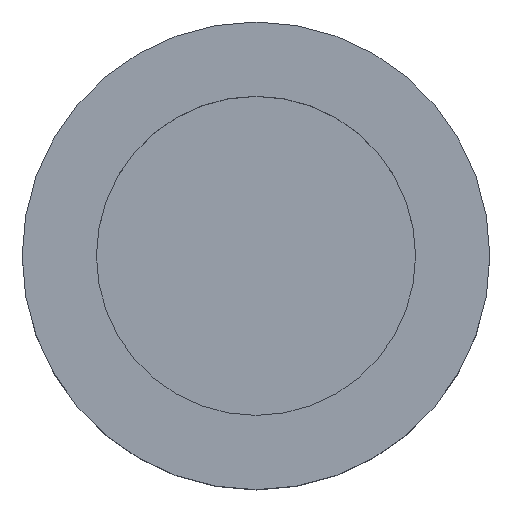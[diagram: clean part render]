
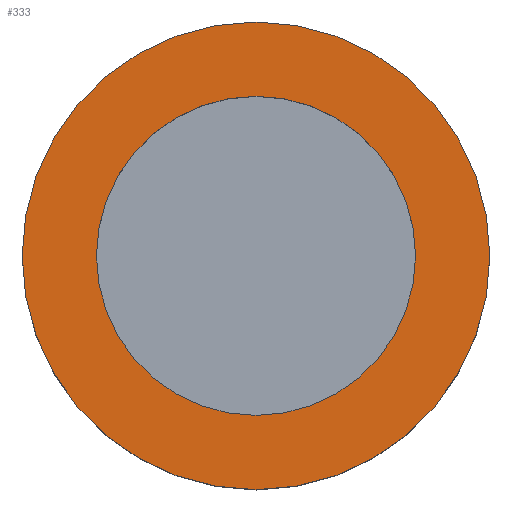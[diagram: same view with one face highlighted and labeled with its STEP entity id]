
A CAD part, top view. The second image highlights one B-rep face of the part: STEP entity #333.
In plain terms, the highlighted planar face has unit normal (0, 0, 1).
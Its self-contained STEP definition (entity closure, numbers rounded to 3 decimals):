
#9 = EDGE_LOOP ( 'NONE', ( #62, #31 ) ) ;
#10 = EDGE_LOOP ( 'NONE', ( #63, #65 ) ) ;
#15 = CARTESIAN_POINT ( 'NONE',  ( -5.459, 0., 6. ) ) ;
#17 = VERTEX_POINT ( 'NONE', #67 ) ;
#22 = VERTEX_POINT ( 'NONE', #15 ) ;
#25 = VERTEX_POINT ( 'NONE', #71 ) ;
#26 = VERTEX_POINT ( 'NONE', #72 ) ;
#31 = ORIENTED_EDGE ( 'NONE', *, *, #234, .F. ) ;
#62 = ORIENTED_EDGE ( 'NONE', *, *, #243, .F. ) ;
#63 = ORIENTED_EDGE ( 'NONE', *, *, #244, .T. ) ;
#65 = ORIENTED_EDGE ( 'NONE', *, *, #236, .T. ) ;
#67 = CARTESIAN_POINT ( 'NONE',  ( -8., 0., 6. ) ) ;
#71 = CARTESIAN_POINT ( 'NONE',  ( 8., 0., 6. ) ) ;
#72 = CARTESIAN_POINT ( 'NONE',  ( 5.459, 0., 6. ) ) ;
#88 = CARTESIAN_POINT ( 'NONE',  ( 0., 0., 6. ) ) ;
#89 = DIRECTION ( 'NONE',  ( 0., 0., -1. ) ) ;
#90 = DIRECTION ( 'NONE',  ( 0., -1., 0. ) ) ;
#95 = CARTESIAN_POINT ( 'NONE',  ( 0., 0., 6. ) ) ;
#96 = DIRECTION ( 'NONE',  ( 0., 0., -1. ) ) ;
#97 = DIRECTION ( 'NONE',  ( 0., -1., 0. ) ) ;
#122 = CARTESIAN_POINT ( 'NONE',  ( 0., 0., 6. ) ) ;
#123 = DIRECTION ( 'NONE',  ( 0., 0., -1. ) ) ;
#124 = DIRECTION ( 'NONE',  ( 0., -1., 0. ) ) ;
#127 = CARTESIAN_POINT ( 'NONE',  ( 0., 0., 6. ) ) ;
#128 = DIRECTION ( 'NONE',  ( 0., 0., -1. ) ) ;
#129 = DIRECTION ( 'NONE',  ( 0., -1., 0. ) ) ;
#162 = CARTESIAN_POINT ( 'NONE',  ( 0., 0., 6. ) ) ;
#166 = FACE_BOUND ( 'NONE', #10, .T. ) ;
#167 = FACE_OUTER_BOUND ( 'NONE', #9, .T. ) ;
#168 = PLANE ( 'NONE',  #272 ) ;
#170 = DIRECTION ( 'NONE',  ( 0., 0., -1. ) ) ;
#171 = DIRECTION ( 'NONE',  ( -1., 0., 0. ) ) ;
#234 = EDGE_CURVE ( 'NONE', #17, #25, #293, .T. ) ;
#236 = EDGE_CURVE ( 'NONE', #22, #26, #299, .T. ) ;
#243 = EDGE_CURVE ( 'NONE', #25, #17, #301, .T. ) ;
#244 = EDGE_CURVE ( 'NONE', #26, #22, #297, .T. ) ;
#272 = AXIS2_PLACEMENT_3D ( 'NONE', #162, #170, #171 ) ;
#282 = AXIS2_PLACEMENT_3D ( 'NONE', #88, #89, #90 ) ;
#291 = AXIS2_PLACEMENT_3D ( 'NONE', #95, #96, #97 ) ;
#293 = CIRCLE ( 'NONE', #282, 8. ) ;
#294 = AXIS2_PLACEMENT_3D ( 'NONE', #122, #123, #124 ) ;
#297 = CIRCLE ( 'NONE', #302, 5.459 ) ;
#299 = CIRCLE ( 'NONE', #291, 5.459 ) ;
#301 = CIRCLE ( 'NONE', #294, 8. ) ;
#302 = AXIS2_PLACEMENT_3D ( 'NONE', #127, #128, #129 ) ;
#333 = ADVANCED_FACE ( 'NONE', ( #166, #167 ), #168, .F. ) ;
